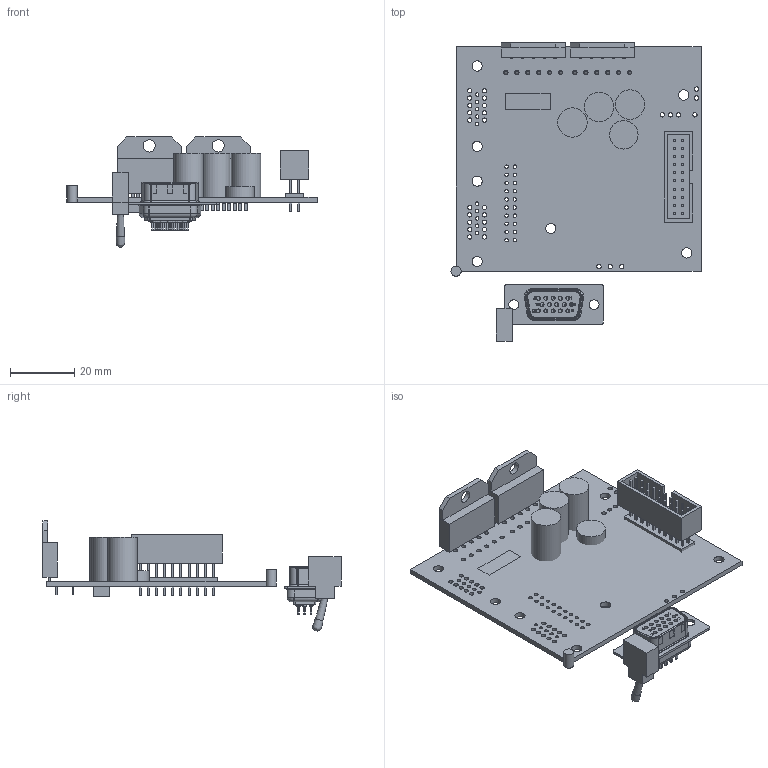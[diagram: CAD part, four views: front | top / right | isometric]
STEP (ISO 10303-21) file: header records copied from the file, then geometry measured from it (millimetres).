
FILE_DESCRIPTION(/* description */ ('Alibre Inc.'),/* implementation_level */ '2;1');
FILE_NAME(/* name */ 'export0',/* time_stamp */ '2008-03-31T10:39:20-07:00',/* author */ (''),/* organization */ (''),/* preprocessor_version */ 'ST-DEVELOPER v10',/* originating_system */ 'Alibre',/* authorisation */ '');
FILE_SCHEMA (('ALIBRE_SCHEMA','CONFIG_CONTROL_DESIGN'));
Length unit declared in the file: inch
Products named in the file (21): ID_1
Bounding box: 77.79 x 92.79 x 34.27 mm (x, y, z)
Volume: 19972.2 mm3; surface area: 26369.1 mm2
Topology: 83 solids, 83 shells, 1845 faces, 4488 edges, 2959 vertices
Faces by surface type: plane 1170, cylinder 495, bspline 108, torus 70, cone 1, revolution 1
Full cylindrical faces by diameter (mm): 1.092 x50, 1.346 x51, 3.175 x9, 3.81 x2, 8.875 x1, 9.144 x3
Entity records: 141835 total; most frequent: CARTESIAN_POINT 62181, ORIENTED_EDGE 12034, DIRECTION 10668, EDGE_CURVE 6017, VECTOR 4466, LINE 4266, VERTEX_POINT 4023, AXIS2_PLACEMENT_3D 3824
